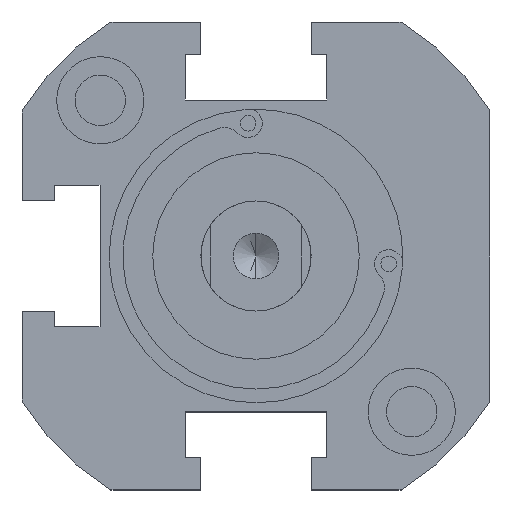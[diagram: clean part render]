
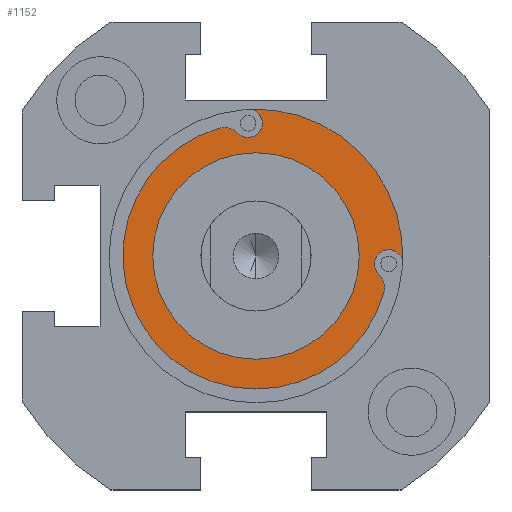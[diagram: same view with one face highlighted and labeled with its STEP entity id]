
A CAD part, front view. The second image highlights one B-rep face of the part: STEP entity #1152.
In plain terms, the highlighted planar face has unit normal (0, -1, 0) as drawn and (0, 1, 0) by its records, which use the part's own axes.
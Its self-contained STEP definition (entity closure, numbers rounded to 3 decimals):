
#5 = CARTESIAN_POINT ( 'NONE',  ( -0.859, -2., -12.914 ) ) ;
#18 = DIRECTION ( 'NONE',  ( 0., 1., 0. ) ) ;
#67 = AXIS2_PLACEMENT_3D ( 'NONE', #533, #18, #2955 ) ;
#70 = CARTESIAN_POINT ( 'NONE',  ( 0., -2., 11.25 ) ) ;
#83 = AXIS2_PLACEMENT_3D ( 'NONE', #691, #2172, #2403 ) ;
#121 = AXIS2_PLACEMENT_3D ( 'NONE', #2299, #1306, #1561 ) ;
#137 = ORIENTED_EDGE ( 'NONE', *, *, #1562, .T. ) ;
#213 = FACE_OUTER_BOUND ( 'NONE', #222, .T. ) ;
#222 = EDGE_LOOP ( 'NONE', ( #137, #1117, #2059, #3157, #667, #1217, #1733, #2207 ) ) ;
#312 = CARTESIAN_POINT ( 'NONE',  ( -3.982, -2., -13.942 ) ) ;
#324 = VERTEX_POINT ( 'NONE', #1714 ) ;
#337 = EDGE_CURVE ( 'NONE', #1958, #324, #1876, .T. ) ;
#345 = CARTESIAN_POINT ( 'NONE',  ( 12.019, -2., 3.433 ) ) ;
#435 = VERTEX_POINT ( 'NONE', #70 ) ;
#533 = CARTESIAN_POINT ( 'NONE',  ( -3.433, -2., -12.019 ) ) ;
#547 = AXIS2_PLACEMENT_3D ( 'NONE', #345, #798, #2508 ) ;
#555 = AXIS2_PLACEMENT_3D ( 'NONE', #2070, #1331, #1063 ) ;
#617 = CIRCLE ( 'NONE', #83, 14.5 ) ;
#631 = VERTEX_POINT ( 'NONE', #2475 ) ;
#648 = AXIS2_PLACEMENT_3D ( 'NONE', #1179, #1439, #2614 ) ;
#667 = ORIENTED_EDGE ( 'NONE', *, *, #1225, .T. ) ;
#691 = CARTESIAN_POINT ( 'NONE',  ( 0., -2., 0. ) ) ;
#729 = CARTESIAN_POINT ( 'NONE',  ( -0.859, -2., -14.464 ) ) ;
#736 = CARTESIAN_POINT ( 'NONE',  ( 0., -2., 0. ) ) ;
#778 = VERTEX_POINT ( 'NONE', #2161 ) ;
#798 = DIRECTION ( 'NONE',  ( 0., 1., 0. ) ) ;
#810 = FACE_BOUND ( 'NONE', #1732, .T. ) ;
#840 = DIRECTION ( 'NONE',  ( 0., 0., 1. ) ) ;
#874 = DIRECTION ( 'NONE',  ( 0., 1., 0. ) ) ;
#947 = CARTESIAN_POINT ( 'NONE',  ( 0., -2., 0. ) ) ;
#975 = CARTESIAN_POINT ( 'NONE',  ( 0., -2., 0. ) ) ;
#979 = DIRECTION ( 'NONE',  ( 0., 1., 0. ) ) ;
#985 = EDGE_CURVE ( 'NONE', #1366, #2376, #1224, .T. ) ;
#1002 = CIRCLE ( 'NONE', #3024, 11.25 ) ;
#1058 = EDGE_CURVE ( 'NONE', #324, #1366, #3106, .T. ) ;
#1063 = DIRECTION ( 'NONE',  ( 0., 0., 1. ) ) ;
#1086 = EDGE_CURVE ( 'NONE', #1172, #631, #1181, .T. ) ;
#1117 = ORIENTED_EDGE ( 'NONE', *, *, #337, .T. ) ;
#1152 = ADVANCED_FACE ( 'NONE', ( #213, #810 ), #1648, .T. ) ;
#1172 = VERTEX_POINT ( 'NONE', #5 ) ;
#1179 = CARTESIAN_POINT ( 'NONE',  ( -0.859, -2., -14.464 ) ) ;
#1181 = CIRCLE ( 'NONE', #648, 1.55 ) ;
#1217 = ORIENTED_EDGE ( 'NONE', *, *, #1086, .F. ) ;
#1224 = CIRCLE ( 'NONE', #121, 1.55 ) ;
#1225 = EDGE_CURVE ( 'NONE', #2376, #631, #1299, .T. ) ;
#1299 = CIRCLE ( 'NONE', #3044, 16. ) ;
#1306 = DIRECTION ( 'NONE',  ( 0., -1., 0. ) ) ;
#1331 = DIRECTION ( 'NONE',  ( 0., 1., 0. ) ) ;
#1366 = VERTEX_POINT ( 'NONE', #1795 ) ;
#1384 = CARTESIAN_POINT ( 'NONE',  ( -1.983, -2., -13.397 ) ) ;
#1423 = VERTEX_POINT ( 'NONE', #1384 ) ;
#1439 = DIRECTION ( 'NONE',  ( 0., 1., 0. ) ) ;
#1476 = DIRECTION ( 'NONE',  ( 0., 0., 1. ) ) ;
#1561 = DIRECTION ( 'NONE',  ( 0., 0., 1. ) ) ;
#1562 = EDGE_CURVE ( 'NONE', #2125, #1958, #617, .T. ) ;
#1626 = AXIS2_PLACEMENT_3D ( 'NONE', #736, #979, #1704 ) ;
#1648 = PLANE ( 'NONE',  #2921 ) ;
#1704 = DIRECTION ( 'NONE',  ( 0., 0., 1. ) ) ;
#1713 = CIRCLE ( 'NONE', #555, 11.25 ) ;
#1714 = CARTESIAN_POINT ( 'NONE',  ( 13.942, -2., 3.982 ) ) ;
#1732 = EDGE_LOOP ( 'NONE', ( #1890, #2643 ) ) ;
#1733 = ORIENTED_EDGE ( 'NONE', *, *, #2004, .F. ) ;
#1795 = CARTESIAN_POINT ( 'NONE',  ( 13.397, -2., 1.983 ) ) ;
#1876 = CIRCLE ( 'NONE', #1626, 14.5 ) ;
#1890 = ORIENTED_EDGE ( 'NONE', *, *, #2329, .F. ) ;
#1958 = VERTEX_POINT ( 'NONE', #2163 ) ;
#2004 = EDGE_CURVE ( 'NONE', #1423, #1172, #2455, .T. ) ;
#2059 = ORIENTED_EDGE ( 'NONE', *, *, #1058, .T. ) ;
#2070 = CARTESIAN_POINT ( 'NONE',  ( 0., -2., 0. ) ) ;
#2125 = VERTEX_POINT ( 'NONE', #312 ) ;
#2161 = CARTESIAN_POINT ( 'NONE',  ( 0., -2., -11.25 ) ) ;
#2163 = CARTESIAN_POINT ( 'NONE',  ( 0., -2., 14.5 ) ) ;
#2172 = DIRECTION ( 'NONE',  ( 0., 1., 0. ) ) ;
#2207 = ORIENTED_EDGE ( 'NONE', *, *, #2227, .T. ) ;
#2227 = EDGE_CURVE ( 'NONE', #1423, #2125, #3148, .T. ) ;
#2230 = DIRECTION ( 'NONE',  ( 0., 0., 1. ) ) ;
#2237 = DIRECTION ( 'NONE',  ( 0., 1., 0. ) ) ;
#2261 = CARTESIAN_POINT ( 'NONE',  ( 15.989, -2., 0.582 ) ) ;
#2299 = CARTESIAN_POINT ( 'NONE',  ( 14.464, -2., 0.859 ) ) ;
#2323 = CARTESIAN_POINT ( 'NONE',  ( 0., -2., 0. ) ) ;
#2329 = EDGE_CURVE ( 'NONE', #435, #778, #1002, .T. ) ;
#2376 = VERTEX_POINT ( 'NONE', #2261 ) ;
#2403 = DIRECTION ( 'NONE',  ( 0., 0., 1. ) ) ;
#2454 = DIRECTION ( 'NONE',  ( 0., 1., 0. ) ) ;
#2455 = CIRCLE ( 'NONE', #2792, 1.55 ) ;
#2475 = CARTESIAN_POINT ( 'NONE',  ( -0.582, -2., -15.989 ) ) ;
#2508 = DIRECTION ( 'NONE',  ( 0., 0., 1. ) ) ;
#2524 = EDGE_CURVE ( 'NONE', #778, #435, #1713, .T. ) ;
#2614 = DIRECTION ( 'NONE',  ( 0., 0., 1. ) ) ;
#2643 = ORIENTED_EDGE ( 'NONE', *, *, #2524, .F. ) ;
#2792 = AXIS2_PLACEMENT_3D ( 'NONE', #729, #2237, #1476 ) ;
#2877 = DIRECTION ( 'NONE',  ( 0., 1., 0. ) ) ;
#2921 = AXIS2_PLACEMENT_3D ( 'NONE', #947, #2877, #3135 ) ;
#2955 = DIRECTION ( 'NONE',  ( 0., 0., 1. ) ) ;
#3024 = AXIS2_PLACEMENT_3D ( 'NONE', #975, #2454, #2230 ) ;
#3044 = AXIS2_PLACEMENT_3D ( 'NONE', #2323, #874, #840 ) ;
#3106 = CIRCLE ( 'NONE', #547, 2. ) ;
#3135 = DIRECTION ( 'NONE',  ( 0., 0., 1. ) ) ;
#3148 = CIRCLE ( 'NONE', #67, 2. ) ;
#3157 = ORIENTED_EDGE ( 'NONE', *, *, #985, .T. ) ;
